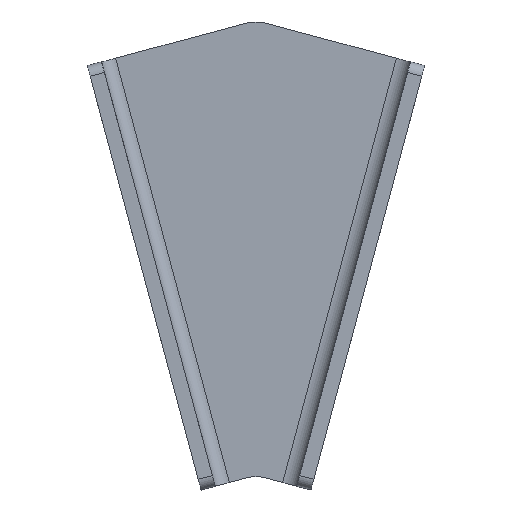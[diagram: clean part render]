
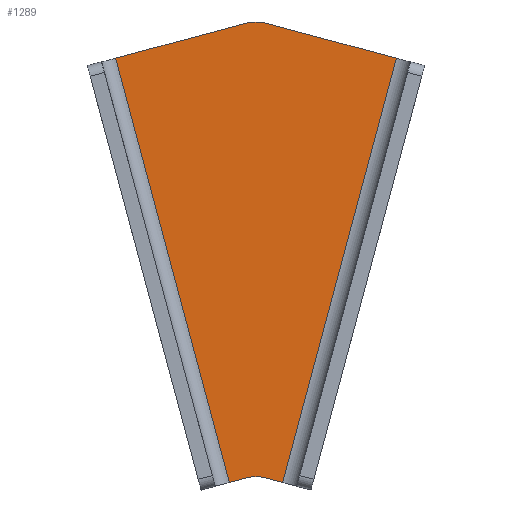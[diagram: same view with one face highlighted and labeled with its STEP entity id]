
A CAD part, top view. The second image highlights one B-rep face of the part: STEP entity #1289.
In plain terms, the highlighted planar face has unit normal (0, 0, 1).
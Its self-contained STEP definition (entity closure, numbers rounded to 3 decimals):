
#6 = CARTESIAN_POINT ( 'NONE',  ( 17.588, 127.559, 4. ) ) ;
#14 = EDGE_CURVE ( 'NONE', #226, #485, #1639, .T. ) ;
#45 = AXIS2_PLACEMENT_3D ( 'NONE', #1045, #128, #1200 ) ;
#58 = EDGE_CURVE ( 'NONE', #1319, #1207, #132, .T. ) ;
#96 = CARTESIAN_POINT ( 'NONE',  ( -31.058, 115.911, 4. ) ) ;
#125 = LINE ( 'NONE', #1390, #1713 ) ;
#128 = DIRECTION ( 'NONE',  ( 0., 0., -1. ) ) ;
#132 = LINE ( 'NONE', #1573, #527 ) ;
#162 = PLANE ( 'NONE',  #1615 ) ;
#226 = VERTEX_POINT ( 'NONE', #6 ) ;
#237 = EDGE_CURVE ( 'NONE', #1741, #1319, #349, .T. ) ;
#312 = DIRECTION ( 'NONE',  ( 1., 0., 0. ) ) ;
#321 = VECTOR ( 'NONE', #885, 1000. ) ;
#349 = LINE ( 'NONE', #617, #1779 ) ;
#404 = CARTESIAN_POINT ( 'NONE',  ( 22.273, 2.071, 4. ) ) ;
#424 = CARTESIAN_POINT ( 'NONE',  ( 30., 0., 4. ) ) ;
#439 = ORIENTED_EDGE ( 'NONE', *, *, #623, .T. ) ;
#485 = VERTEX_POINT ( 'NONE', #1108 ) ;
#495 = VERTEX_POINT ( 'NONE', #1624 ) ;
#504 = CARTESIAN_POINT ( 'NONE',  ( 15., 117.9, 4. ) ) ;
#516 = CARTESIAN_POINT ( 'NONE',  ( -23.331, 117.982, 4. ) ) ;
#521 = LINE ( 'NONE', #96, #878 ) ;
#527 = VECTOR ( 'NONE', #640, 1000. ) ;
#607 = ORIENTED_EDGE ( 'NONE', *, *, #58, .T. ) ;
#617 = CARTESIAN_POINT ( 'NONE',  ( 7.727, 2.071, 4. ) ) ;
#621 = VERTEX_POINT ( 'NONE', #1501 ) ;
#623 = EDGE_CURVE ( 'NONE', #1908, #621, #1148, .T. ) ;
#636 = EDGE_CURVE ( 'NONE', #1207, #495, #1562, .T. ) ;
#640 = DIRECTION ( 'NONE',  ( 0.966, 0.259, 0. ) ) ;
#672 = DIRECTION ( 'NONE',  ( 0., 0., 1. ) ) ;
#709 = LINE ( 'NONE', #424, #321 ) ;
#730 = VECTOR ( 'NONE', #1652, 1000. ) ;
#764 = CARTESIAN_POINT ( 'NONE',  ( 0., 0., 4. ) ) ;
#826 = DIRECTION ( 'NONE',  ( 1., 0., 0. ) ) ;
#842 = ORIENTED_EDGE ( 'NONE', *, *, #1230, .T. ) ;
#849 = DIRECTION ( 'NONE',  ( -0.966, -0.259, 0. ) ) ;
#878 = VECTOR ( 'NONE', #849, 1000. ) ;
#885 = DIRECTION ( 'NONE',  ( 0.966, -0.259, 0. ) ) ;
#891 = ORIENTED_EDGE ( 'NONE', *, *, #1385, .T. ) ;
#902 = EDGE_LOOP ( 'NONE', ( #842, #439, #1513, #1099, #891, #1902, #607, #1260 ) ) ;
#1045 = CARTESIAN_POINT ( 'NONE',  ( 15., -6.334, 4. ) ) ;
#1093 = AXIS2_PLACEMENT_3D ( 'NONE', #504, #672, #826 ) ;
#1099 = ORIENTED_EDGE ( 'NONE', *, *, #14, .T. ) ;
#1108 = CARTESIAN_POINT ( 'NONE',  ( 12.412, 127.559, 4. ) ) ;
#1148 = LINE ( 'NONE', #1189, #730 ) ;
#1189 = CARTESIAN_POINT ( 'NONE',  ( 20.263, -5.429, 4. ) ) ;
#1200 = DIRECTION ( 'NONE',  ( 1., 0., 0. ) ) ;
#1207 = VERTEX_POINT ( 'NONE', #1819 ) ;
#1230 = EDGE_CURVE ( 'NONE', #495, #1908, #709, .T. ) ;
#1234 = DIRECTION ( 'NONE',  ( 0., 0., 1. ) ) ;
#1242 = DIRECTION ( 'NONE',  ( -0.966, 0.259, 0. ) ) ;
#1260 = ORIENTED_EDGE ( 'NONE', *, *, #636, .T. ) ;
#1289 = ADVANCED_FACE ( 'NONE', ( #1444 ), #162, .T. ) ;
#1312 = EDGE_CURVE ( 'NONE', #621, #226, #125, .T. ) ;
#1319 = VERTEX_POINT ( 'NONE', #1550 ) ;
#1385 = EDGE_CURVE ( 'NONE', #485, #1741, #521, .T. ) ;
#1390 = CARTESIAN_POINT ( 'NONE',  ( 61.058, 115.911, 4. ) ) ;
#1444 = FACE_OUTER_BOUND ( 'NONE', #902, .T. ) ;
#1501 = CARTESIAN_POINT ( 'NONE',  ( 53.331, 117.982, 4. ) ) ;
#1513 = ORIENTED_EDGE ( 'NONE', *, *, #1312, .T. ) ;
#1549 = DIRECTION ( 'NONE',  ( 0.259, -0.966, 0. ) ) ;
#1550 = CARTESIAN_POINT ( 'NONE',  ( 7.727, 2.071, 4. ) ) ;
#1562 = CIRCLE ( 'NONE', #45, 10. ) ;
#1573 = CARTESIAN_POINT ( 'NONE',  ( 0., 0., 4. ) ) ;
#1615 = AXIS2_PLACEMENT_3D ( 'NONE', #764, #1234, #312 ) ;
#1624 = CARTESIAN_POINT ( 'NONE',  ( 17.588, 3.326, 4. ) ) ;
#1639 = CIRCLE ( 'NONE', #1093, 10. ) ;
#1652 = DIRECTION ( 'NONE',  ( 0.259, 0.966, 0. ) ) ;
#1713 = VECTOR ( 'NONE', #1242, 1000. ) ;
#1741 = VERTEX_POINT ( 'NONE', #516 ) ;
#1779 = VECTOR ( 'NONE', #1549, 1000. ) ;
#1819 = CARTESIAN_POINT ( 'NONE',  ( 12.412, 3.326, 4. ) ) ;
#1902 = ORIENTED_EDGE ( 'NONE', *, *, #237, .T. ) ;
#1908 = VERTEX_POINT ( 'NONE', #404 ) ;
